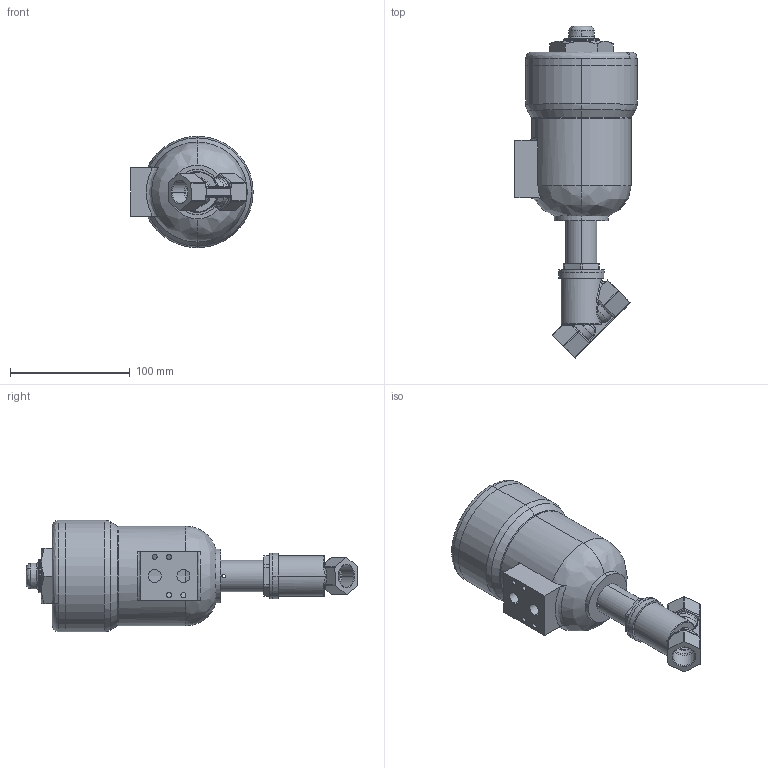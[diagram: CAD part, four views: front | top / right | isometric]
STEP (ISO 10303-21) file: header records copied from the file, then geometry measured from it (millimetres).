
FILE_DESCRIPTION (( 'STEP AP203' ), '1' );
FILE_NAME ('PCIPFM_015_2_1.STEP', '2017-07-25T15:37:46', ( 'user' ), ( '' ), 'SwSTEP 2.0', 'SolidWorks 2013', '' );
FILE_SCHEMA (( 'CONFIG_CONTROL_DESIGN' ));
Length unit declared in the file: millimetre
Products named in the file (1): PCIPFM_015_2_1
Bounding box: 102 x 276.95 x 93 mm (x, y, z)
Surface area: 74336.7 mm2 (no closed solid volume)
Topology: 0 solids, 5 shells, 302 faces, 804 edges, 489 vertices
Faces by surface type: bspline 105, cylinder 99, plane 72, cone 26
Entity records: 15395 total; most frequent: CARTESIAN_POINT 8713, ORIENTED_EDGE 1470, DIRECTION 1208, EDGE_CURVE 785, VERTEX_POINT 489, AXIS2_PLACEMENT_3D 476, EDGE_LOOP 323, FACE_OUTER_BOUND 302
